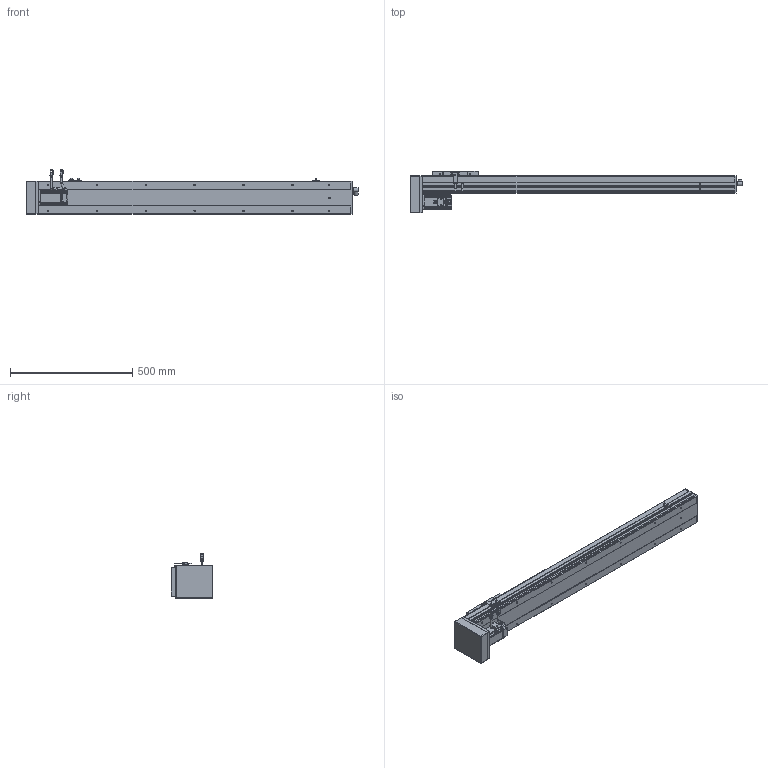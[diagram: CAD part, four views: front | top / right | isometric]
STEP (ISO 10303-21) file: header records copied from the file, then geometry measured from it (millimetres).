
FILE_DESCRIPTION(/* description */ ('STEP AP214'),/* implementation_level */ '2;1');
FILE_NAME(/* name */ 'PSC140-L05-S1000-BM-P40-C1-N(0-P)',/* time_stamp */ '2022-06-13T03:22:02+02:00',/* author */ ('License CC BY-ND 4.0'),/* organization */ ('CADENAS'),/* preprocessor_version */ 'ST-DEVELOPER v18.102',/* originating_system */ 'PARTsolutions',/* authorisation */ ' ');
FILE_SCHEMA (('AUTOMOTIVE_DESIGN {1 0 10303 214 3 1 1}'));
Length unit declared in the file: millimetre
Products named in the file (11): PSC140-L05-S1000-BM-P40-C1-N(0-P); P40-s2; P40-c2; P40-s1; P40-c1; P40-p1; PSC140-BM-body2; PSC140-sensor; PSC140-BM-SLIDER; PSC140-S1000-BM-P40-C1-P_BODY1; PSC140-L05-S1000-BM-P40-C1-N(0-P)_dummy
Assembly tree (12 placements, depth 2):
  PSC140-L05-S1000-BM-P40-C1-N(0-P)
    P40-s2
    P40-c2
    P40-s1
    P40-c1
    P40-p1
    PSC140-BM-body2
    PSC140-sensor  x3
    PSC140-BM-SLIDER
    PSC140-S1000-BM-P40-C1-P_BODY1
    PSC140-L05-S1000-BM-P40-C1-N(0-P)_dummy
Bounding box: 1358 x 171.5 x 182.48 mm (x, y, z)
Volume: 13975021.8 mm3; surface area: 796198.6 mm2
Topology: 11 solids, 11 shells, 1244 faces, 3205 edges, 2120 vertices
Faces by surface type: plane 864, cylinder 319, cone 42, torus 19
Full cylindrical faces by diameter (mm): 1 x8, 2.6 x10, 2.8 x3, 3.3 x8, 4.5 x12, 4.6 x3, 4.917 x18, 5 x4, 5.5 x8, 6 x11, 7 x10, 9 x2, 10 x1, 11 x1, 12 x1, 13.74 x1, 14 x1, 16.4 x2, 16.5 x1, 36 x1, 50 x2
Entity records: 34392 total; most frequent: CARTESIAN_POINT 6002, DIRECTION 5789, ORIENTED_EDGE 5574, EDGE_CURVE 2787, LINE 2105, VECTOR 2105, VERTEX_POINT 1940, AXIS2_PLACEMENT_3D 1842
